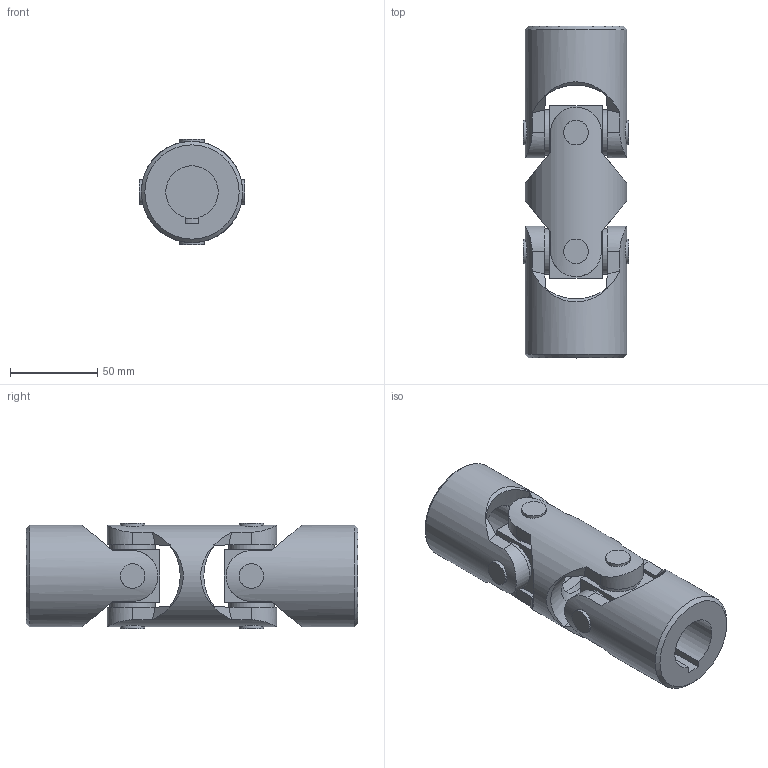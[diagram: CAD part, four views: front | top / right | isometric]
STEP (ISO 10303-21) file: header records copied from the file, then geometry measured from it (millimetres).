
FILE_DESCRIPTION(/* description */ (''),/* implementation_level */ '2;1');
FILE_NAME(/* name */ '\\SRV2016\Societa\Stefano\Disegni 3D\0Catalogo 3D\14Doppi XD\Ø58_6XD_SX0D302C.stp',/* time_stamp */ '2023-05-15T09:12:27+02:00',/* author */ ('acquisti'),/* organization */ (''),/* preprocessor_version */ 'ST-DEVELOPER v15.6',/* originating_system */ 'Autodesk Inventor 2015',/* authorisation */ '');
FILE_SCHEMA (('AUTOMOTIVE_DESIGN { 1 0 10303 214 3 1 1 }'));
Length unit declared in the file: millimetre
Products named in the file (4): 6X SFE; 6X MOD; 6X MOC; Ø58_6XD_SX0D3000
Assembly tree (5 placements, depth 2):
  Ø58_6XD_SX0D3000
    6X SFE  x2
    6X MOD
    6X MOC  x2
Bounding box: 60.5 x 190 x 60.5 mm (x, y, z)
Volume: 323806.8 mm3; surface area: 71298.1 mm2
Topology: 5 solids, 5 shells, 127 faces, 331 edges, 226 vertices
Faces by surface type: plane 68, cylinder 33, cone 22, torus 4
Full cylindrical faces by diameter (mm): 14 x8, 26 x8, 32 x2, 58 x3
Entity records: 3178 total; most frequent: CARTESIAN_POINT 1216, ORIENTED_EDGE 392, DIRECTION 365, EDGE_CURVE 196, AXIS2_PLACEMENT_3D 154, VERTEX_POINT 144, EDGE_LOOP 116, FACE_OUTER_BOUND 85
